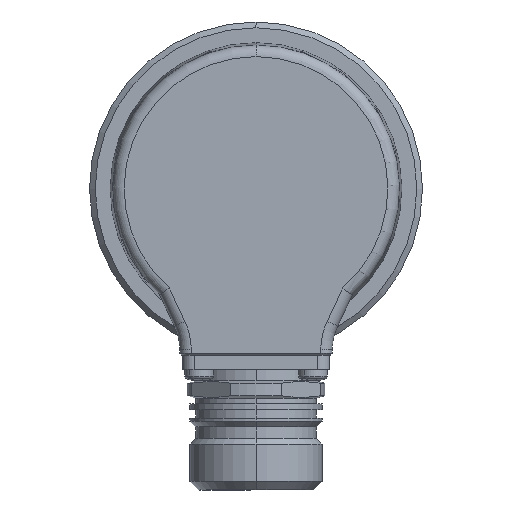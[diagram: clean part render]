
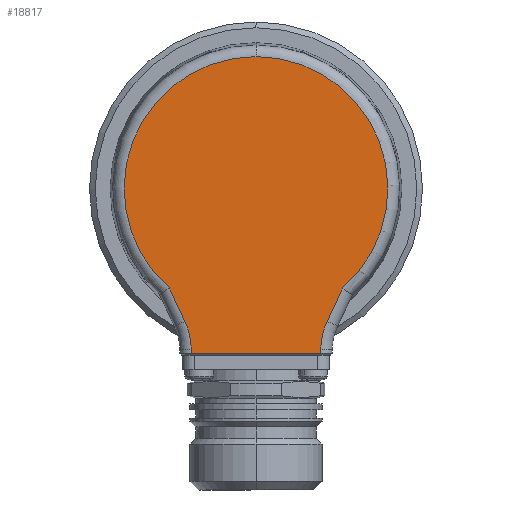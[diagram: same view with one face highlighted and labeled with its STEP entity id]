
A CAD part, left-side view. The second image highlights one B-rep face of the part: STEP entity #18817.
In plain terms, the highlighted planar face has unit normal (-1, 0, 0).
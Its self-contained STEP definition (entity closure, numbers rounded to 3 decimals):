
#18447 = EDGE_CURVE ( 'NONE', #18448, #18449, #26789, .T. ) ;
#18448 = VERTEX_POINT ( 'NONE', #26780 ) ;
#18449 = VERTEX_POINT ( 'NONE', #26834 ) ;
#18766 = VERTEX_POINT ( 'NONE', #27947 ) ;
#18810 = ORIENTED_EDGE ( 'NONE', *, *, #18878, .T. ) ;
#18817 = ADVANCED_FACE ( 'NONE', ( #28094 ), #28143, .F. ) ;
#18818 = EDGE_LOOP ( 'NONE', ( #18819, #18852, #18840, #18883, #18877, #18893, #18876, #18884, #18810 ) ) ;
#18819 = ORIENTED_EDGE ( 'NONE', *, *, #18821, .T. ) ;
#18821 = EDGE_CURVE ( 'NONE', #18850, #18851, #28132, .T. ) ;
#18840 = ORIENTED_EDGE ( 'NONE', *, *, #18841, .T. ) ;
#18841 = EDGE_CURVE ( 'NONE', #18766, #18842, #28150, .T. ) ;
#18842 = VERTEX_POINT ( 'NONE', #28211 ) ;
#18850 = VERTEX_POINT ( 'NONE', #28225 ) ;
#18851 = VERTEX_POINT ( 'NONE', #28218 ) ;
#18852 = ORIENTED_EDGE ( 'NONE', *, *, #18853, .T. ) ;
#18853 = EDGE_CURVE ( 'NONE', #18851, #18766, #28217, .T. ) ;
#18876 = ORIENTED_EDGE ( 'NONE', *, *, #18447, .T. ) ;
#18877 = ORIENTED_EDGE ( 'NONE', *, *, #18892, .T. ) ;
#18878 = EDGE_CURVE ( 'NONE', #18894, #18850, #28370, .T. ) ;
#18879 = EDGE_CURVE ( 'NONE', #18891, #18448, #28363, .T. ) ;
#18880 = VERTEX_POINT ( 'NONE', #28358 ) ;
#18882 = EDGE_CURVE ( 'NONE', #18449, #18894, #28357, .T. ) ;
#18883 = ORIENTED_EDGE ( 'NONE', *, *, #18885, .T. ) ;
#18884 = ORIENTED_EDGE ( 'NONE', *, *, #18882, .T. ) ;
#18885 = EDGE_CURVE ( 'NONE', #18842, #18880, #28352, .T. ) ;
#18891 = VERTEX_POINT ( 'NONE', #28382 ) ;
#18892 = EDGE_CURVE ( 'NONE', #18880, #18891, #28381, .T. ) ;
#18893 = ORIENTED_EDGE ( 'NONE', *, *, #18879, .T. ) ;
#18894 = VERTEX_POINT ( 'NONE', #28377 ) ;
#26780 = CARTESIAN_POINT ( 'NONE',  ( -21., 0., 22.972 ) ) ;
#26781 = DIRECTION ( 'NONE',  ( 0., 0., 1. ) ) ;
#26782 = DIRECTION ( 'NONE',  ( -1., 0., 0. ) ) ;
#26783 = CARTESIAN_POINT ( 'NONE',  ( -21., 0., 0. ) ) ;
#26784 = AXIS2_PLACEMENT_3D ( 'NONE', #26783, #26782, #26781 ) ;
#26789 = CIRCLE ( 'NONE', #26784, 22.972 ) ;
#26834 = CARTESIAN_POINT ( 'NONE',  ( -21., 15.091, -17.32 ) ) ;
#27947 = CARTESIAN_POINT ( 'NONE',  ( -21., -11.255, -28.695 ) ) ;
#28094 = FACE_OUTER_BOUND ( 'NONE', #18818, .T. ) ;
#28129 = DIRECTION ( 'NONE',  ( 0., -0.017, -1. ) ) ;
#28130 = VECTOR ( 'NONE', #28129, 1000. ) ;
#28131 = CARTESIAN_POINT ( 'NONE',  ( -21., 11.752, -0.205 ) ) ;
#28132 = LINE ( 'NONE', #28131, #28130 ) ;
#28138 = DIRECTION ( 'NONE',  ( 0., 0., 1. ) ) ;
#28139 = DIRECTION ( 'NONE',  ( 1., 0., 0. ) ) ;
#28140 = CARTESIAN_POINT ( 'NONE',  ( -21., 0., 0. ) ) ;
#28141 = AXIS2_PLACEMENT_3D ( 'NONE', #28140, #28139, #28138 ) ;
#28143 = PLANE ( 'NONE',  #28141 ) ;
#28147 = DIRECTION ( 'NONE',  ( 0., -0.017, 1. ) ) ;
#28148 = VECTOR ( 'NONE', #28147, 1000. ) ;
#28149 = CARTESIAN_POINT ( 'NONE',  ( -21., -11.752, -0.205 ) ) ;
#28150 = LINE ( 'NONE', #28149, #28148 ) ;
#28211 = CARTESIAN_POINT ( 'NONE',  ( -21., -11.268, -27.974 ) ) ;
#28214 = DIRECTION ( 'NONE',  ( 0., -1., 0. ) ) ;
#28215 = VECTOR ( 'NONE', #28214, 1000. ) ;
#28216 = CARTESIAN_POINT ( 'NONE',  ( -21., -11.25, -28.695 ) ) ;
#28217 = LINE ( 'NONE', #28216, #28215 ) ;
#28218 = CARTESIAN_POINT ( 'NONE',  ( -21., 11.255, -28.695 ) ) ;
#28225 = CARTESIAN_POINT ( 'NONE',  ( -21., 11.268, -27.974 ) ) ;
#28348 = DIRECTION ( 'NONE',  ( 0., 0., 1. ) ) ;
#28349 = DIRECTION ( 'NONE',  ( 1., 0., 0. ) ) ;
#28350 = CARTESIAN_POINT ( 'NONE',  ( -21., -23.266, -28.183 ) ) ;
#28351 = AXIS2_PLACEMENT_3D ( 'NONE', #28350, #28349, #28348 ) ;
#28352 = CIRCLE ( 'NONE', #28351, 12. ) ;
#28354 = DIRECTION ( 'NONE',  ( 0., -0.423, -0.906 ) ) ;
#28355 = VECTOR ( 'NONE', #28354, 1000. ) ;
#28356 = CARTESIAN_POINT ( 'NONE',  ( -21., 12.39, -23.112 ) ) ;
#28357 = LINE ( 'NONE', #28356, #28355 ) ;
#28358 = CARTESIAN_POINT ( 'NONE',  ( -21., -12.39, -23.112 ) ) ;
#28359 = DIRECTION ( 'NONE',  ( 0., 0., 1. ) ) ;
#28360 = DIRECTION ( 'NONE',  ( -1., 0., 0. ) ) ;
#28361 = CARTESIAN_POINT ( 'NONE',  ( -21., 0., 0. ) ) ;
#28362 = AXIS2_PLACEMENT_3D ( 'NONE', #28361, #28360, #28359 ) ;
#28363 = CIRCLE ( 'NONE', #28362, 22.972 ) ;
#28364 = DIRECTION ( 'NONE',  ( 0., 0., 1. ) ) ;
#28365 = DIRECTION ( 'NONE',  ( 1., 0., 0. ) ) ;
#28366 = CARTESIAN_POINT ( 'NONE',  ( -21., 23.266, -28.183 ) ) ;
#28367 = AXIS2_PLACEMENT_3D ( 'NONE', #28366, #28365, #28364 ) ;
#28370 = CIRCLE ( 'NONE', #28367, 12. ) ;
#28377 = CARTESIAN_POINT ( 'NONE',  ( -21., 12.39, -23.112 ) ) ;
#28378 = DIRECTION ( 'NONE',  ( 0., -0.423, 0.906 ) ) ;
#28379 = VECTOR ( 'NONE', #28378, 1000. ) ;
#28380 = CARTESIAN_POINT ( 'NONE',  ( -21., -14.953, -17.615 ) ) ;
#28381 = LINE ( 'NONE', #28380, #28379 ) ;
#28382 = CARTESIAN_POINT ( 'NONE',  ( -21., -15.091, -17.32 ) ) ;
